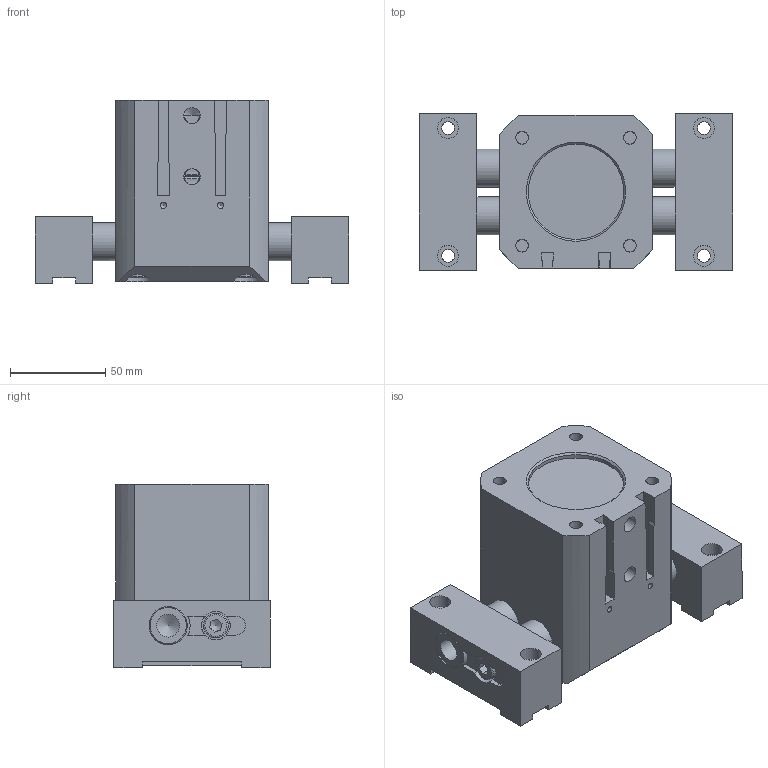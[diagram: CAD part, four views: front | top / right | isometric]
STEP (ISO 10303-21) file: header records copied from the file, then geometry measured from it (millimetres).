
FILE_DESCRIPTION((''),'2;1');
FILE_NAME('T:\CAD\Standard\Daten\3D-Datenbank\GP\4 - 3D-CAD-Daten GP 050-125\GP100\step-Daten\G-GP100-l2-GS+UB open.stp','2013-11-07T11:52:24',('Dirk'),(''),'Autodesk Inventor 2011','Autodesk Inventor 2011','');
FILE_SCHEMA(('AUTOMOTIVE_DESIGN { 1 0 10303 214 1 1 1 1 }'));
Length unit declared in the file: millimetre
Products named in the file (1): Bauteil51
Bounding box: 164.13 x 82 x 96 mm (x, y, z)
Volume: 711827.1 mm3; surface area: 142076.3 mm2
Topology: 22 solids, 22 shells, 416 faces, 1042 edges, 671 vertices
Faces by surface type: plane 232, cylinder 119, cone 40, torus 24, bspline 1
Full cylindrical faces by diameter (mm): 3.242 x2, 6.647 x10, 8 x6, 8.2 x4, 8.376 x1, 8.566 x2, 9 x2, 10 x1, 11 x6, 12 x2, 13 x6, 15 x8, 20 x7, 22 x5, 23 x2, 24 x1, 28.4 x2, 33 x1, 45 x1, 48 x1, 50 x1, 52 x2, 54.2 x1, 61.1 x2, 62 x1, 64 x5
Entity records: 12617 total; most frequent: CARTESIAN_POINT 2970, DIRECTION 1914, ORIENTED_EDGE 1654, EDGE_CURVE 827, AXIS2_PLACEMENT_3D 745, EDGE_LOOP 630, VERTEX_POINT 597, STYLED_ITEM 433
